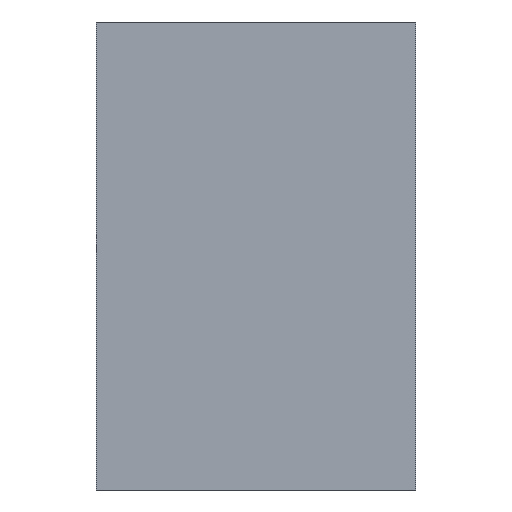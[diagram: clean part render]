
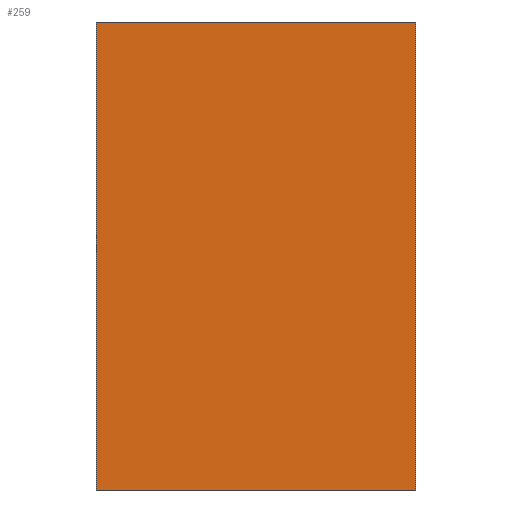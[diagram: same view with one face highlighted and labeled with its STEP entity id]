
A CAD part, front view. The second image highlights one B-rep face of the part: STEP entity #259.
In plain terms, the highlighted planar face has unit normal (0, -1, 0).
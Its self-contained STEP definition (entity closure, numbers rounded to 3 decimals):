
#43 = EDGE_CURVE('',#44,#46,#48,.T.);
#44 = VERTEX_POINT('',#45);
#45 = CARTESIAN_POINT('',(-38.35,-14.2,-16.7));
#46 = VERTEX_POINT('',#47);
#47 = CARTESIAN_POINT('',(-38.35,-14.2,-14.5));
#48 = SURFACE_CURVE('',#49,(#53,#65),.PCURVE_S1.);
#49 = LINE('',#50,#51);
#50 = CARTESIAN_POINT('',(-38.35,-14.2,-16.7));
#51 = VECTOR('',#52,1.);
#52 = DIRECTION('',(0.,0.,1.));
#53 = PCURVE('',#54,#59);
#54 = PLANE('',#55);
#55 = AXIS2_PLACEMENT_3D('',#56,#57,#58);
#56 = CARTESIAN_POINT('',(-38.35,-14.2,-16.7));
#57 = DIRECTION('',(1.,0.,-0.));
#58 = DIRECTION('',(0.,0.,1.));
#59 = DEFINITIONAL_REPRESENTATION('',(#60),#64);
#60 = LINE('',#61,#62);
#61 = CARTESIAN_POINT('',(0.,0.));
#62 = VECTOR('',#63,1.);
#63 = DIRECTION('',(1.,0.));
#64 = ( GEOMETRIC_REPRESENTATION_CONTEXT(2) 
PARAMETRIC_REPRESENTATION_CONTEXT() REPRESENTATION_CONTEXT('2D SPACE',''
  ) );
#65 = PCURVE('',#66,#71);
#66 = PLANE('',#67);
#67 = AXIS2_PLACEMENT_3D('',#68,#69,#70);
#68 = CARTESIAN_POINT('',(-38.35,-14.2,-16.7));
#69 = DIRECTION('',(-0.,1.,0.));
#70 = DIRECTION('',(0.,0.,1.));
#71 = DEFINITIONAL_REPRESENTATION('',(#72),#76);
#72 = LINE('',#73,#74);
#73 = CARTESIAN_POINT('',(0.,0.));
#74 = VECTOR('',#75,1.);
#75 = DIRECTION('',(1.,0.));
#76 = ( GEOMETRIC_REPRESENTATION_CONTEXT(2) 
PARAMETRIC_REPRESENTATION_CONTEXT() REPRESENTATION_CONTEXT('2D SPACE',''
  ) );
#94 = PLANE('',#95);
#95 = AXIS2_PLACEMENT_3D('',#96,#97,#98);
#96 = CARTESIAN_POINT('',(-38.35,-14.2,-16.7));
#97 = DIRECTION('',(0.,0.,1.));
#98 = DIRECTION('',(1.,0.,-0.));
#148 = PLANE('',#149);
#149 = AXIS2_PLACEMENT_3D('',#150,#151,#152);
#150 = CARTESIAN_POINT('',(-38.35,-14.2,-14.5));
#151 = DIRECTION('',(0.,0.,1.));
#152 = DIRECTION('',(1.,0.,-0.));
#163 = EDGE_CURVE('',#164,#166,#168,.T.);
#164 = VERTEX_POINT('',#165);
#165 = CARTESIAN_POINT('',(-36.85,-14.2,-16.7));
#166 = VERTEX_POINT('',#167);
#167 = CARTESIAN_POINT('',(-36.85,-14.2,-14.5));
#168 = SURFACE_CURVE('',#169,(#173,#185),.PCURVE_S1.);
#169 = LINE('',#170,#171);
#170 = CARTESIAN_POINT('',(-36.85,-14.2,-16.7));
#171 = VECTOR('',#172,1.);
#172 = DIRECTION('',(0.,0.,1.));
#173 = PCURVE('',#174,#179);
#174 = PLANE('',#175);
#175 = AXIS2_PLACEMENT_3D('',#176,#177,#178);
#176 = CARTESIAN_POINT('',(-36.85,-14.2,-16.7));
#177 = DIRECTION('',(1.,0.,-0.));
#178 = DIRECTION('',(0.,0.,1.));
#179 = DEFINITIONAL_REPRESENTATION('',(#180),#184);
#180 = LINE('',#181,#182);
#181 = CARTESIAN_POINT('',(0.,0.));
#182 = VECTOR('',#183,1.);
#183 = DIRECTION('',(1.,0.));
#184 = ( GEOMETRIC_REPRESENTATION_CONTEXT(2) 
PARAMETRIC_REPRESENTATION_CONTEXT() REPRESENTATION_CONTEXT('2D SPACE',''
  ) );
#185 = PCURVE('',#66,#186);
#186 = DEFINITIONAL_REPRESENTATION('',(#187),#191);
#187 = LINE('',#188,#189);
#188 = CARTESIAN_POINT('',(0.,1.5));
#189 = VECTOR('',#190,1.);
#190 = DIRECTION('',(1.,0.));
#191 = ( GEOMETRIC_REPRESENTATION_CONTEXT(2) 
PARAMETRIC_REPRESENTATION_CONTEXT() REPRESENTATION_CONTEXT('2D SPACE',''
  ) );
#259 = ADVANCED_FACE('',(#260),#66,.F.);
#260 = FACE_BOUND('',#261,.F.);
#261 = EDGE_LOOP('',(#262,#283,#284,#305));
#262 = ORIENTED_EDGE('',*,*,#263,.F.);
#263 = EDGE_CURVE('',#44,#164,#264,.T.);
#264 = SURFACE_CURVE('',#265,(#269,#276),.PCURVE_S1.);
#265 = LINE('',#266,#267);
#266 = CARTESIAN_POINT('',(-38.35,-14.2,-16.7));
#267 = VECTOR('',#268,1.);
#268 = DIRECTION('',(1.,0.,-0.));
#269 = PCURVE('',#66,#270);
#270 = DEFINITIONAL_REPRESENTATION('',(#271),#275);
#271 = LINE('',#272,#273);
#272 = CARTESIAN_POINT('',(0.,0.));
#273 = VECTOR('',#274,1.);
#274 = DIRECTION('',(0.,1.));
#275 = ( GEOMETRIC_REPRESENTATION_CONTEXT(2) 
PARAMETRIC_REPRESENTATION_CONTEXT() REPRESENTATION_CONTEXT('2D SPACE',''
  ) );
#276 = PCURVE('',#94,#277);
#277 = DEFINITIONAL_REPRESENTATION('',(#278),#282);
#278 = LINE('',#279,#280);
#279 = CARTESIAN_POINT('',(0.,0.));
#280 = VECTOR('',#281,1.);
#281 = DIRECTION('',(1.,0.));
#282 = ( GEOMETRIC_REPRESENTATION_CONTEXT(2) 
PARAMETRIC_REPRESENTATION_CONTEXT() REPRESENTATION_CONTEXT('2D SPACE',''
  ) );
#283 = ORIENTED_EDGE('',*,*,#43,.T.);
#284 = ORIENTED_EDGE('',*,*,#285,.T.);
#285 = EDGE_CURVE('',#46,#166,#286,.T.);
#286 = SURFACE_CURVE('',#287,(#291,#298),.PCURVE_S1.);
#287 = LINE('',#288,#289);
#288 = CARTESIAN_POINT('',(-38.35,-14.2,-14.5));
#289 = VECTOR('',#290,1.);
#290 = DIRECTION('',(1.,0.,-0.));
#291 = PCURVE('',#66,#292);
#292 = DEFINITIONAL_REPRESENTATION('',(#293),#297);
#293 = LINE('',#294,#295);
#294 = CARTESIAN_POINT('',(2.2,0.));
#295 = VECTOR('',#296,1.);
#296 = DIRECTION('',(0.,1.));
#297 = ( GEOMETRIC_REPRESENTATION_CONTEXT(2) 
PARAMETRIC_REPRESENTATION_CONTEXT() REPRESENTATION_CONTEXT('2D SPACE',''
  ) );
#298 = PCURVE('',#148,#299);
#299 = DEFINITIONAL_REPRESENTATION('',(#300),#304);
#300 = LINE('',#301,#302);
#301 = CARTESIAN_POINT('',(0.,0.));
#302 = VECTOR('',#303,1.);
#303 = DIRECTION('',(1.,0.));
#304 = ( GEOMETRIC_REPRESENTATION_CONTEXT(2) 
PARAMETRIC_REPRESENTATION_CONTEXT() REPRESENTATION_CONTEXT('2D SPACE',''
  ) );
#305 = ORIENTED_EDGE('',*,*,#163,.F.);
